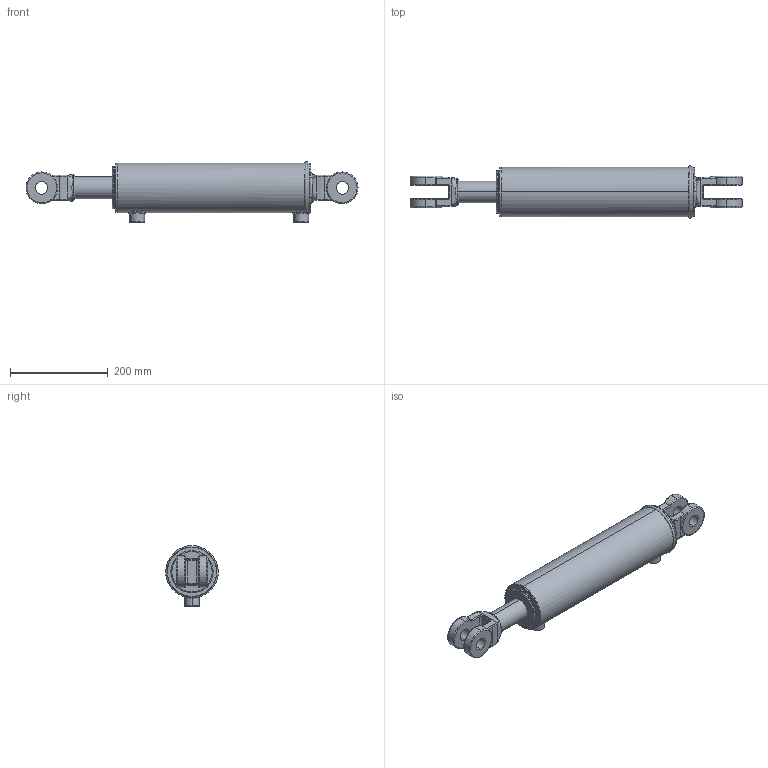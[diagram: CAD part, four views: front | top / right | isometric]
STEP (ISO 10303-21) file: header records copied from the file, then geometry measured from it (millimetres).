
FILE_DESCRIPTION (( 'STEP AP203' ), '1' );
FILE_NAME ('CL-CL350175x305 (12).STEP', '2014-11-22T16:31:01', ( '' ), ( '' ), 'SwSTEP 2.0', 'SolidWorks 2014', '' );
FILE_SCHEMA (( 'CONFIG_CONTROL_DESIGN' ));
Length unit declared in the file: millimetre
Products named in the file (4): 3 in ext circlip; SPARE 6_12x1.75; CL-CL350175x305 (12); CL-CL300150x  body_3.5x12
Assembly tree (3 placements, depth 2):
  CL-CL350175x305 (12)
    CL-CL300150x  body_3.5x12
    3 in ext circlip
    SPARE 6_12x1.75
Bounding box: 679.39 x 107.33 x 124.5 mm (x, y, z)
Volume: 3833031.7 mm3; surface area: 313966.8 mm2
Topology: 3 solids, 3 shells, 211 faces, 518 edges, 319 vertices
Faces by surface type: cylinder 91, bspline 59, plane 38, torus 15, cone 8
Entity records: 11321 total; most frequent: CARTESIAN_POINT 6234, ORIENTED_EDGE 1028, DIRECTION 941, EDGE_CURVE 514, AXIS2_PLACEMENT_3D 393, VERTEX_POINT 319, CIRCLE 235, EDGE_LOOP 233
